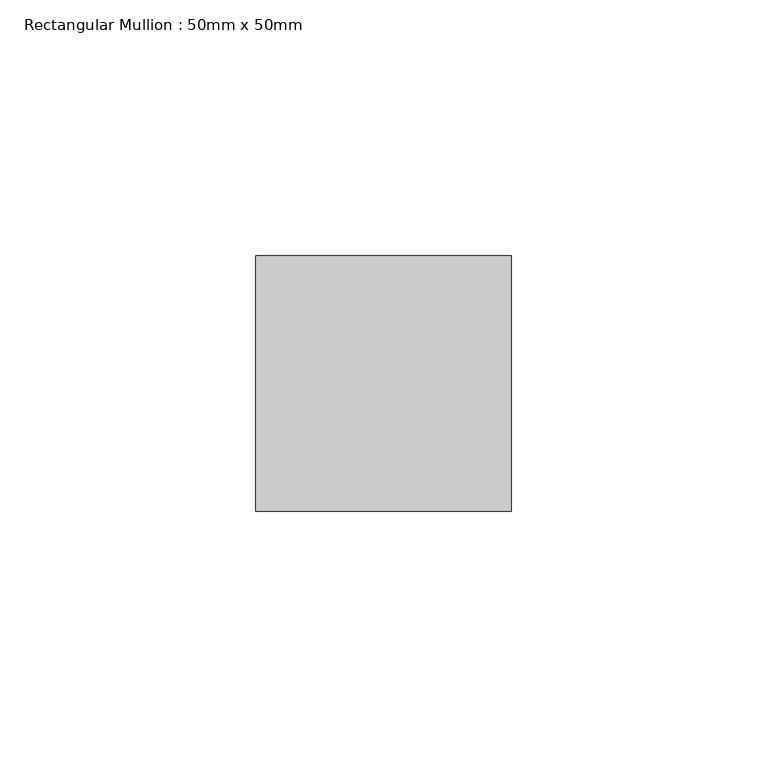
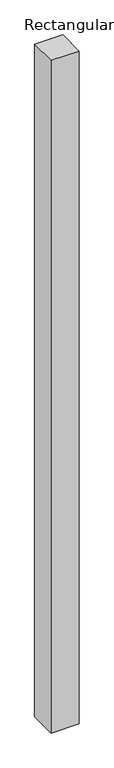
"""IFC4 building model written with IfcOpenShell, lengths in millimetres: member geometry, Rectangular Mullion : 50mm x 50mm."""

from ifc_helpers import new_model, si_unit, frame, origin, place, context, project, spatial, polyline, outline, extrude, source, transform, mapped, element, save


def rectangular_mullion_50mm_x_50mm_d6e8ffe5(model_context):
    return source(origin(), model_context, "Body", "SweptSolid", [
        extrude(outline(polyline([(25.0, 25.0), (25.0, -25.0), (-25.0, -25.0), (-25.0, 25.0), (25.0, 25.0)])), frame((0.0, 0.0, -1261.2244214), z_axis=(0.0, 0.0, 1.0), x_axis=(1.0, 0.0, 0.0)), (0.0, 0.0, 1.0), 1261.2244214),
    ])


if __name__ == "__main__":
    model = new_model("IFC4")
    model_context = context("Model", 3, world=origin())
    ifc_project = project(units=[si_unit("LENGTHUNIT", "METRE", prefix="MILLI")], contexts=[model_context])
    site = spatial("IfcSite", under=ifc_project)
    building = spatial("IfcBuilding", under=site)
    placement = place(None, origin())
    rectangular_mullion_50mm_x_50mm_shape = rectangular_mullion_50mm_x_50mm_d6e8ffe5(model_context)
    element("IfcMember", 1, ObjectType="Rectangular Mullion : 50mm x 50mm", at=placement, inside=building, context=model_context, shape_type="MappedRepresentation", body=[
        mapped(rectangular_mullion_50mm_x_50mm_shape, transform((0.0, 0.0, 0.0), x_axis=(1.0, 0.0, 0.0), y_axis=(0.0, 1.0, 0.0), z_axis=(0.0, 0.0, 1.0))),
    ])
    save(model, "model.ifc")
